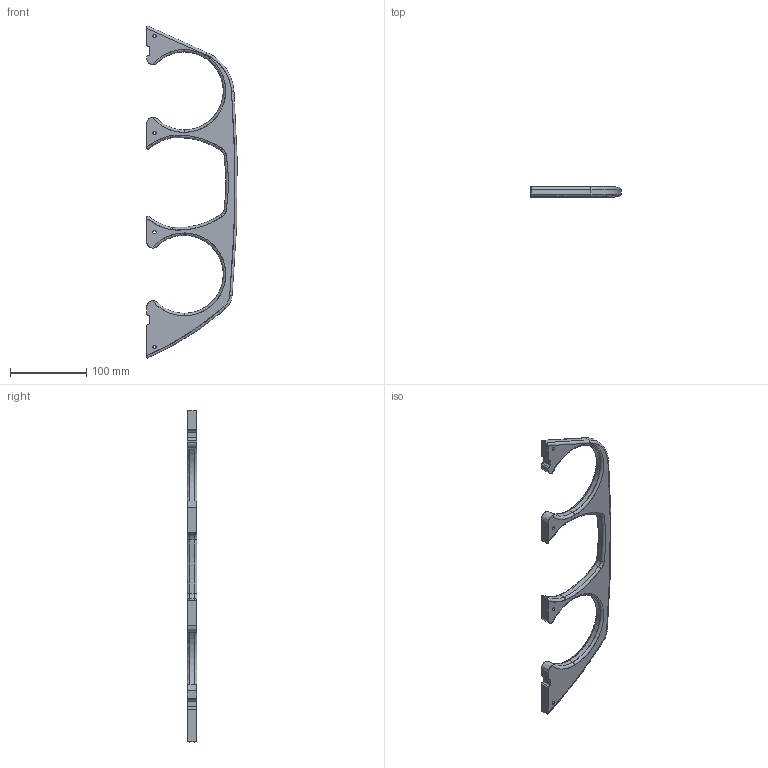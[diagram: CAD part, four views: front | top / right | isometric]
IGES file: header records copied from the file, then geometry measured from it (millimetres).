
Start section: SolidWorks IGES file using analytic representation for surfaces
Global section: file name: C:\Users\Agamemnon\Dropbox\BR-Engineering\PROJECTS\BROV2-HEAVY\MODELS\DEVELOPMENT\BROV2-HEAVY-FILES\BROV2-HEAVY-P-GUARD-X1B.IGS; native system: SolidWorks 2016; preprocessor: SolidWorks 2016; author: Agamemnon; date: 180619.144915; units: millimetre
Bounding box: 118.17 x 12.7 x 434.46 mm (x, y, z)
Surface area: 48692.6 mm2 (no closed solid volume)
Topology: 0 solids, 0 shells, 101 faces, 1439 edges, 1439 vertices
Faces by surface type: bspline 51, revolution 50
